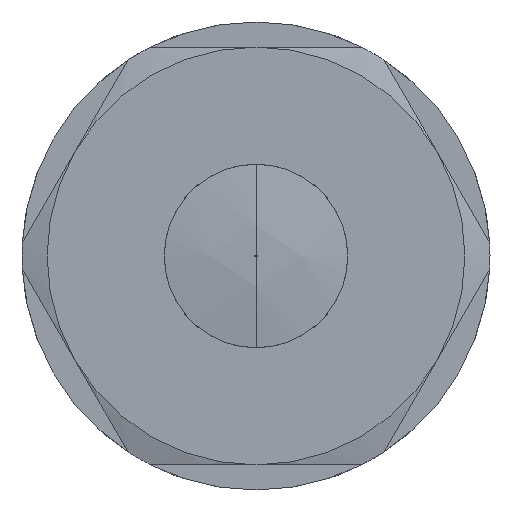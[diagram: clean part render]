
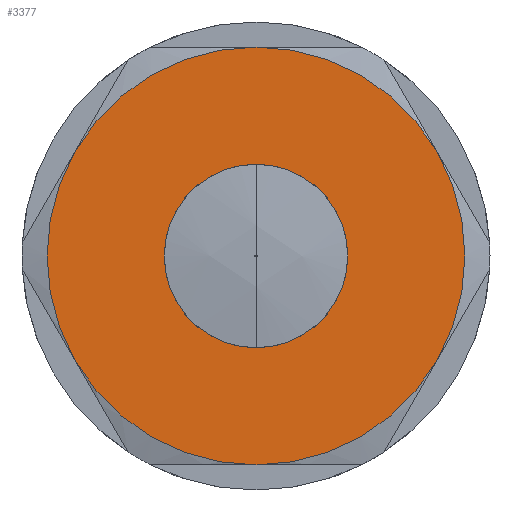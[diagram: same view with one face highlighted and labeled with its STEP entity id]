
A CAD part, left-side view. The second image highlights one B-rep face of the part: STEP entity #3377.
In plain terms, the highlighted planar face has unit normal (-1, 0, 0).
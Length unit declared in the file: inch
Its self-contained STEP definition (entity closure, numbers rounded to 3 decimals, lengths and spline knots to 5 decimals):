
#693=CARTESIAN_POINT('',(0.,0.21975,3.));
#694=VERTEX_POINT('',#693);
#703=CARTESIAN_POINT('',(0.,-0.21975,3.));
#704=VERTEX_POINT('',#703);
#705=CARTESIAN_POINT('',(0.,0.,3.));
#706=DIRECTION('',(1.0,0.0,0.0));
#707=DIRECTION('',(0.0,1.0,0.0));
#708=AXIS2_PLACEMENT_3D('',#705,#706,#707);
#709=CIRCLE('',#708,0.21975);
#710=EDGE_CURVE('',#704,#694,#709,.T.);
#3302=CARTESIAN_POINT('',(0.,0.,3.));
#3303=DIRECTION('',(1.0,0.0,0.0));
#3304=DIRECTION('',(0.0,1.0,0.0));
#3305=AXIS2_PLACEMENT_3D('',#3302,#3303,#3304);
#3306=CIRCLE('',#3305,0.21975);
#3307=EDGE_CURVE('',#694,#704,#3306,.T.);
#3312=CARTESIAN_POINT('',(0.,0.,3.));
#3313=DIRECTION('',(-1.0,0.0,0.0));
#3314=DIRECTION('',(0.0,0.0,1.0));
#3315=AXIS2_PLACEMENT_3D('',#3312,#3313,#3314);
#3316=PLANE('',#3315);
#3317=CARTESIAN_POINT('',(0.,-0.43301,3.25));
#3318=VERTEX_POINT('',#3317);
#3319=CARTESIAN_POINT('',(0.,0.,3.5));
#3320=VERTEX_POINT('',#3319);
#3321=CARTESIAN_POINT('',(0.,0.,3.));
#3322=DIRECTION('',(-1.0,0.0,0.0));
#3323=DIRECTION('',(0.0,0.0,-1.0));
#3324=AXIS2_PLACEMENT_3D('',#3321,#3322,#3323);
#3325=CIRCLE('',#3324,0.5);
#3326=EDGE_CURVE('',#3318,#3320,#3325,.T.);
#3327=ORIENTED_EDGE('',*,*,#3326,.T.);
#3328=CARTESIAN_POINT('',(0.0,0.43301,3.25));
#3329=VERTEX_POINT('',#3328);
#3330=CARTESIAN_POINT('',(0.,0.,3.));
#3331=DIRECTION('',(-1.0,0.0,0.0));
#3332=DIRECTION('',(0.0,0.0,-1.0));
#3333=AXIS2_PLACEMENT_3D('',#3330,#3331,#3332);
#3334=CIRCLE('',#3333,0.5);
#3335=EDGE_CURVE('',#3320,#3329,#3334,.T.);
#3336=ORIENTED_EDGE('',*,*,#3335,.T.);
#3337=CARTESIAN_POINT('',(0.,0.43301,2.75));
#3338=VERTEX_POINT('',#3337);
#3339=CARTESIAN_POINT('',(0.,0.,3.));
#3340=DIRECTION('',(-1.0,0.0,0.0));
#3341=DIRECTION('',(0.0,0.0,-1.0));
#3342=AXIS2_PLACEMENT_3D('',#3339,#3340,#3341);
#3343=CIRCLE('',#3342,0.5);
#3344=EDGE_CURVE('',#3329,#3338,#3343,.T.);
#3345=ORIENTED_EDGE('',*,*,#3344,.T.);
#3346=CARTESIAN_POINT('',(0.0,0.,2.5));
#3347=VERTEX_POINT('',#3346);
#3348=CARTESIAN_POINT('',(0.,0.,3.));
#3349=DIRECTION('',(-1.0,0.0,0.0));
#3350=DIRECTION('',(0.0,0.0,-1.0));
#3351=AXIS2_PLACEMENT_3D('',#3348,#3349,#3350);
#3352=CIRCLE('',#3351,0.5);
#3353=EDGE_CURVE('',#3338,#3347,#3352,.T.);
#3354=ORIENTED_EDGE('',*,*,#3353,.T.);
#3355=CARTESIAN_POINT('',(0.,-0.43301,2.75));
#3356=VERTEX_POINT('',#3355);
#3357=CARTESIAN_POINT('',(0.,0.,3.));
#3358=DIRECTION('',(-1.0,0.0,0.0));
#3359=DIRECTION('',(0.0,0.0,-1.0));
#3360=AXIS2_PLACEMENT_3D('',#3357,#3358,#3359);
#3361=CIRCLE('',#3360,0.5);
#3362=EDGE_CURVE('',#3347,#3356,#3361,.T.);
#3363=ORIENTED_EDGE('',*,*,#3362,.T.);
#3364=CARTESIAN_POINT('',(0.,0.,3.));
#3365=DIRECTION('',(-1.0,0.0,0.0));
#3366=DIRECTION('',(0.0,0.0,-1.0));
#3367=AXIS2_PLACEMENT_3D('',#3364,#3365,#3366);
#3368=CIRCLE('',#3367,0.5);
#3369=EDGE_CURVE('',#3356,#3318,#3368,.T.);
#3370=ORIENTED_EDGE('',*,*,#3369,.T.);
#3371=EDGE_LOOP('',(#3327,#3336,#3345,#3354,#3363,#3370));
#3372=FACE_OUTER_BOUND('',#3371,.T.);
#3373=ORIENTED_EDGE('',*,*,#3307,.T.);
#3374=ORIENTED_EDGE('',*,*,#710,.T.);
#3375=EDGE_LOOP('',(#3373,#3374));
#3376=FACE_BOUND('',#3375,.T.);
#3377=ADVANCED_FACE('',(#3372,#3376),#3316,.T.);
